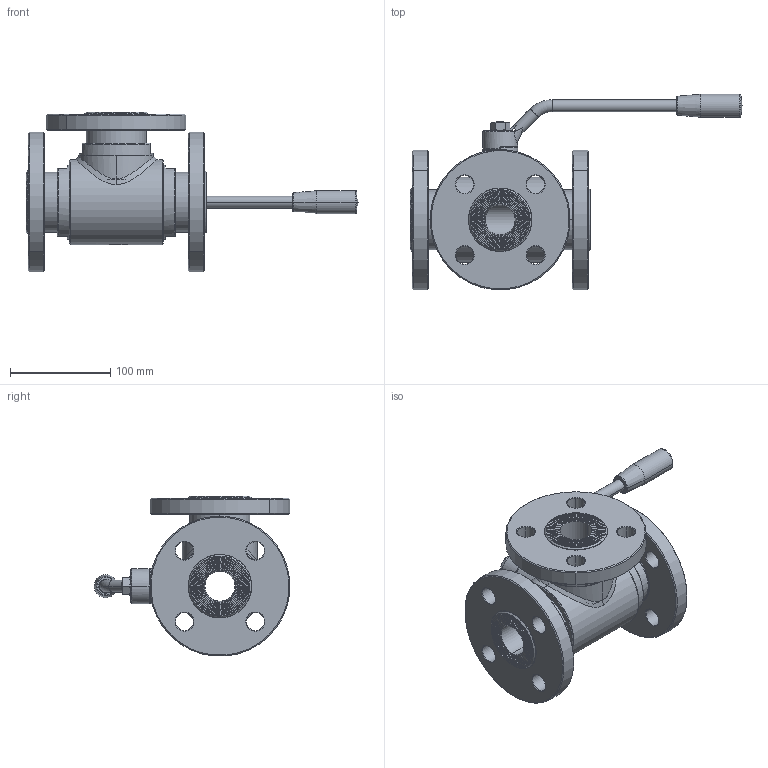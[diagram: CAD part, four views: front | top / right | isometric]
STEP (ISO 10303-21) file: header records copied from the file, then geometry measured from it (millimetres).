
FILE_DESCRIPTION((''),'2;1');
FILE_NAME('30015063010','2015-05-07T',('uff_tec'),('CDM Tecnoconsulting'),'PRO/ENGINEER BY PARAMETRIC TECHNOLOGY CORPORATION, 2010280','PRO/ENGINEER BY PARAMETRIC TECHNOLOGY CORPORATION, 2010280','');
FILE_SCHEMA(('CONFIG_CONTROL_DESIGN','SHAPE_APPEARANCE_LAYERS_GROUPS'));
Length unit declared in the file: millimetre
Products named in the file (1): 30015063010
Bounding box: 331.5 x 195.23 x 159.73 mm (x, y, z)
Surface area: 228028.1 mm2 (no closed solid volume)
Topology: 0 solids, 44 shells, 425 faces, 1442 edges, 1075 vertices
Faces by surface type: cone 143, cylinder 96, plane 94, torus 68, bspline 14, extrusion 8, sphere 2
Entity records: 18540 total; most frequent: CARTESIAN_POINT 5264, DIRECTION 2652, ORIENTED_EDGE 2266, EDGE_CURVE 1438, VERTEX_POINT 1075, AXIS2_PLACEMENT_3D 1023, CIRCLE 620, VECTOR 606
